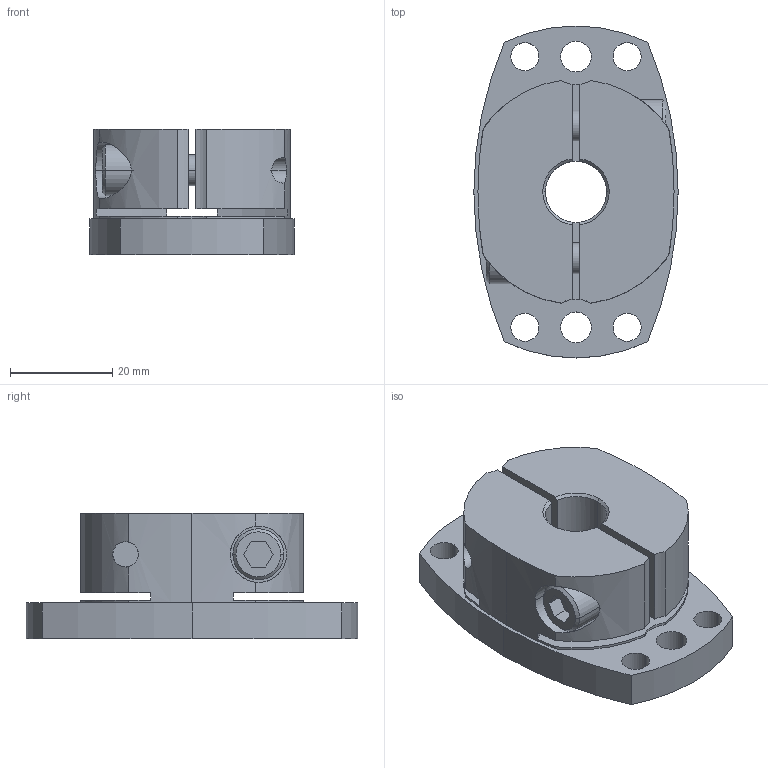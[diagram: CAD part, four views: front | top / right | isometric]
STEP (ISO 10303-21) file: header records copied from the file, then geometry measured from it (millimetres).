
FILE_DESCRIPTION((''),'2;1');
FILE_NAME('SHDB-65B-12.stp','2026-01-28T07:52:58',(''),(''),'AutoCAD STEP 2000i','AutoCAD 2000i',', , ');
FILE_SCHEMA(('CONFIG_CONTROL_DESIGN'));
Length unit declared in the file: millimetre
Products named in the file (2): SHDB-65B-12; 忣兜1
Assembly tree (1 placements, depth 2):
  SHDB-65B-12
    忣兜1
Bounding box: 40 x 65 x 24.5 mm (x, y, z)
Volume: 34036.8 mm3; surface area: 12926.7 mm2
Topology: 1 solids, 1 shells, 102 faces, 280 edges, 184 vertices
Faces by surface type: cylinder 58, plane 34, cone 10
Entity records: 3731 total; most frequent: CARTESIAN_POINT 904, DIRECTION 602, ORIENTED_EDGE 560, EDGE_CURVE 280, AXIS2_PLACEMENT_3D 238, VERTEX_POINT 184, CIRCLE 134, VECTOR 126
